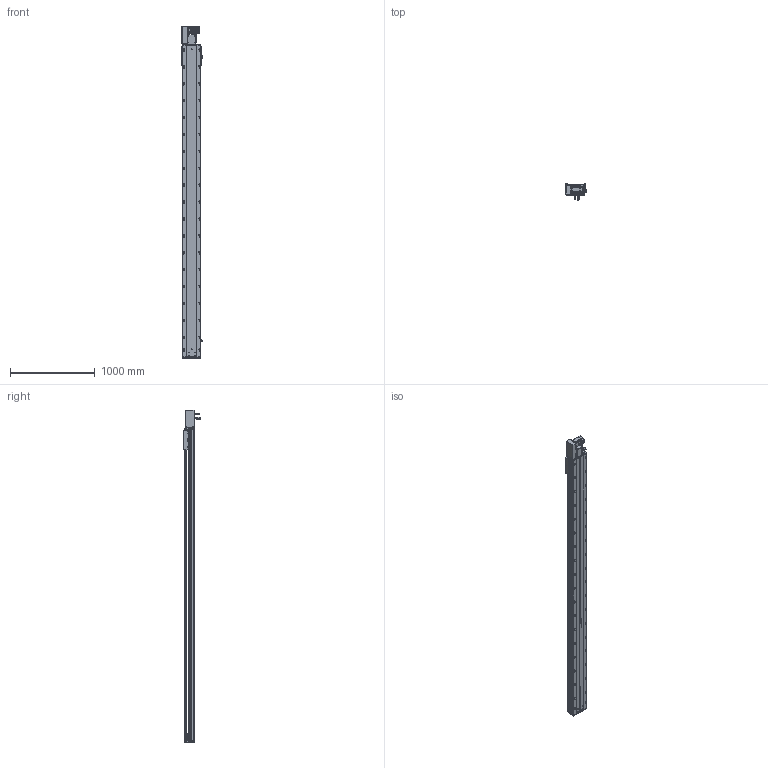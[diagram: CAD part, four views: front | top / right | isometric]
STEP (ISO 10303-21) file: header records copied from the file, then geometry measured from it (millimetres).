
FILE_DESCRIPTION (( 'STEP AP203' ), '1' );
FILE_NAME ('RY220-T-300-LK.SLDASM_3350.step', '2022-07-25T08:17:10', ( '' ), ( '' ), 'SwSTEP 2.0', 'SolidWorks 2016', '' );
FILE_SCHEMA (( 'CONFIG_CONTROL_DESIGN' ));
Length unit declared in the file: millimetre
Products named in the file (14): RY220-T菁釱-300_3350; RY220-俋离672覜茼んえ; 覜茼ん672; RY220圉猾敕々湍臏賑輸; RY220-T-300-LK.SLDASM_3350; RY220-T-蛌殏萇儂假蚾啣(750W); RY220翋肮祭謫釱; RY220翋肮祭謫裔啣; 滅袉蝶18-15; RY220-同步轮副支撑座6304×2; 怢湛750W_ECMA-CX0807ES; RY220-T-湍謫欶(鍼踢); RY220-T-300-奻裔啣_3350; 110A-T-肮祭謫釱傷裔
Assembly tree (18 placements, depth 2):
  RY220-T-300-LK.SLDASM_3350
    RY220-T菁釱-300_3350
    RY220翋肮祭謫釱
    覜茼ん672  x3
    RY220圉猾敕々湍臏賑輸
    RY220-T-300-奻裔啣_3350
    RY220-俋离672覜茼んえ
    滅袉蝶18-15  x3
    RY220翋肮祭謫裔啣  x2
    110A-T-肮祭謫釱傷裔
    怢湛750W_ECMA-CX0807ES
    RY220-T-湍謫欶(鍼踢)
    RY220-T-蛌殏萇儂假蚾啣(750W)
    RY220-同步轮副支撑座6304×2
Bounding box: 239.7 x 198.77 x 3929 mm (x, y, z)
Volume: 27468394 mm3; surface area: 8537511.6 mm2
Topology: 19 solids, 19 shells, 3104 faces, 8591 edges, 5364 vertices
Faces by surface type: cylinder 1548, plane 1069, cone 405, bspline 56, sphere 16, torus 10
Entity records: 103555 total; most frequent: CARTESIAN_POINT 29131, ORIENTED_EDGE 15354, DIRECTION 14900, EDGE_CURVE 7677, AXIS2_PLACEMENT_3D 5402, VERTEX_POINT 4988, VECTOR 4096, LINE 4096
